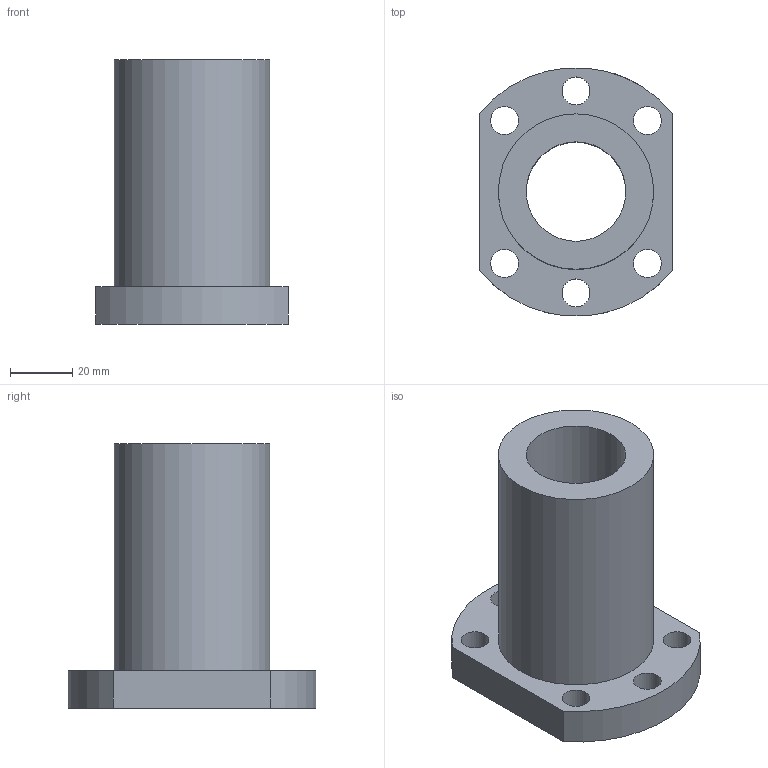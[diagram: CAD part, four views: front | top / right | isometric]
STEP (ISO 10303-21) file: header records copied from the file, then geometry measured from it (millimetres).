
FILE_DESCRIPTION(/* description */ (''),/* implementation_level */ '2;1');
FILE_NAME(/* name */ '32-10T4',/* time_stamp */ '2007-05-17T17:55:36+08:00',/* author */ (''),/* organization */ (''),/* preprocessor_version */ 'ST-DEVELOPER v9',/* originating_system */ 'UGS - NX 4.0',/* authorisation */ '');
FILE_SCHEMA (('CONFIG_CONTROL_DESIGN'));
Length unit declared in the file: millimetre
Products named in the file (1): 32-10T4
Bounding box: 62 x 79.74 x 85 mm (x, y, z)
Volume: 122855.1 mm3; surface area: 31715 mm2
Topology: 1 solids, 1 shells, 18 faces, 42 edges, 28 vertices
Faces by surface type: cylinder 12, plane 6
Full cylindrical faces by diameter (mm): 4 x1, 6 x1, 9 x6, 32 x1, 50 x1
Entity records: 706 total; most frequent: CARTESIAN_POINT 193, DIRECTION 90, ORIENTED_EDGE 64, EDGE_LOOP 46, AXIS2_PLACEMENT_3D 41, FACE_BOUND 38, EDGE_CURVE 32, VERTEX_POINT 28
